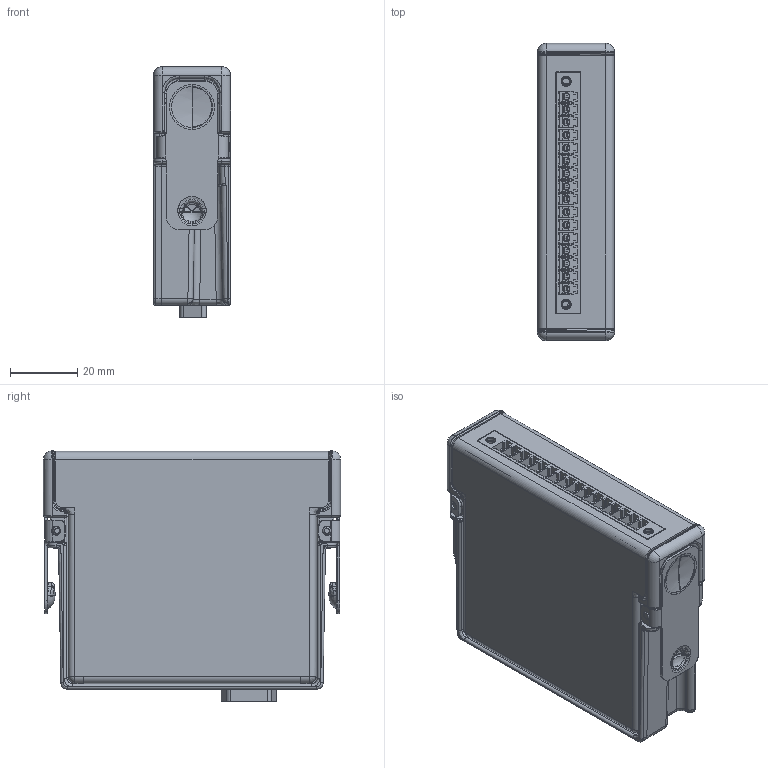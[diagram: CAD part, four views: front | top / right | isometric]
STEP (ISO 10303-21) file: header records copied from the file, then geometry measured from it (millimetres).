
FILE_DESCRIPTION((''),'2;1');
FILE_NAME('CU_NI9224_8_ASM','2017-01-25T',('kleong'),(''),'CREO PARAMETRIC BY PTC INC, 2015380','CREO PARAMETRIC BY PTC INC, 2015380','');
FILE_SCHEMA(('CONFIG_CONTROL_DESIGN'));
Products named in the file (2): _CU_NI9224_8; CU_NI9224_8_ASM
Assembly tree (1 placements, depth 2):
  CU_NI9224_8_ASM
    _CU_NI9224_8
Bounding box: 22.86 x 88.11 x 74.24 mm (x, y, z)
Volume: 1083 mm3; surface area: 73904.5 mm2
Topology: 8 solids, 40 shells, 3401 faces, 9271 edges, 5787 vertices
Faces by surface type: plane 1866, cylinder 877, bspline 323, torus 134, cone 100, sphere 55, extrusion 46
Entity records: 126859 total; most frequent: CARTESIAN_POINT 44229, ORIENTED_EDGE 17346, DIRECTION 15997, EDGE_CURVE 9207, VECTOR 6013, LINE 5967, VERTEX_POINT 5825, AXIS2_PLACEMENT_3D 4992
